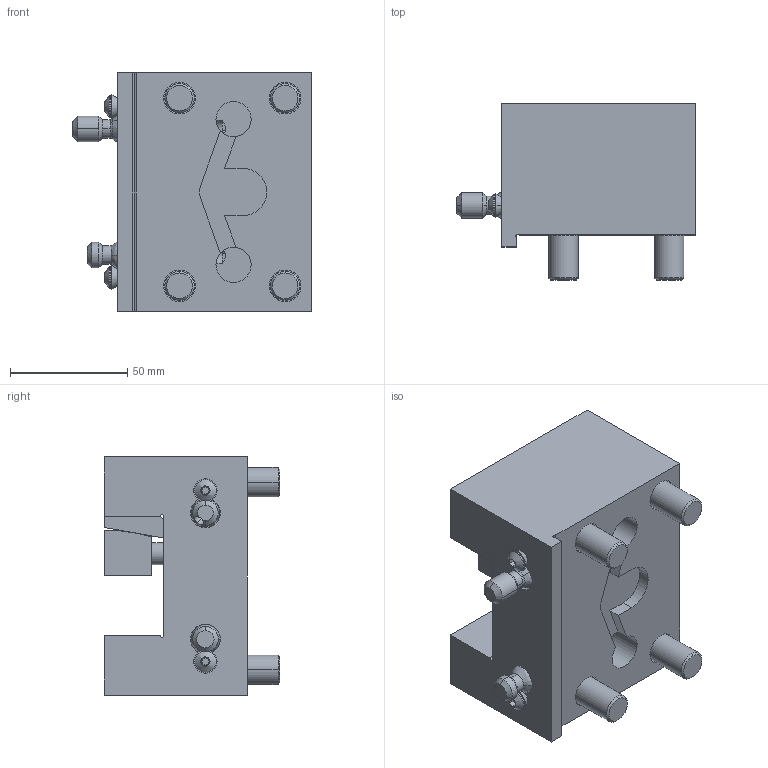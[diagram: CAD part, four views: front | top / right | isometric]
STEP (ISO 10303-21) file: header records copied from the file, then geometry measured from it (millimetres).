
FILE_DESCRIPTION (( 'STEP AP203' ), '1' );
FILE_NAME ('04-0759, BOT20FG-1.0.STEP', '2022-07-18T14:37:57', ( '' ), ( '' ), 'SwSTEP 2.0', 'SolidWorks 2021', '' );
FILE_SCHEMA (( 'CONFIG_CONTROL_DESIGN' ));
Length unit declared in the file: inch
Products named in the file (1): 04-0759, BOT20FG-1.0
Bounding box: 101.82 x 74.94 x 101.6 mm (x, y, z)
Surface area: 74254 mm2 (no closed solid volume)
Topology: 0 solids, 22 shells, 227 faces, 639 edges, 432 vertices
Faces by surface type: plane 107, cylinder 77, cone 33, bspline 10
Entity records: 9135 total; most frequent: CARTESIAN_POINT 3169, DIRECTION 1255, ORIENTED_EDGE 1128, EDGE_CURVE 635, AXIS2_PLACEMENT_3D 452, VERTEX_POINT 432, LINE 351, VECTOR 351
